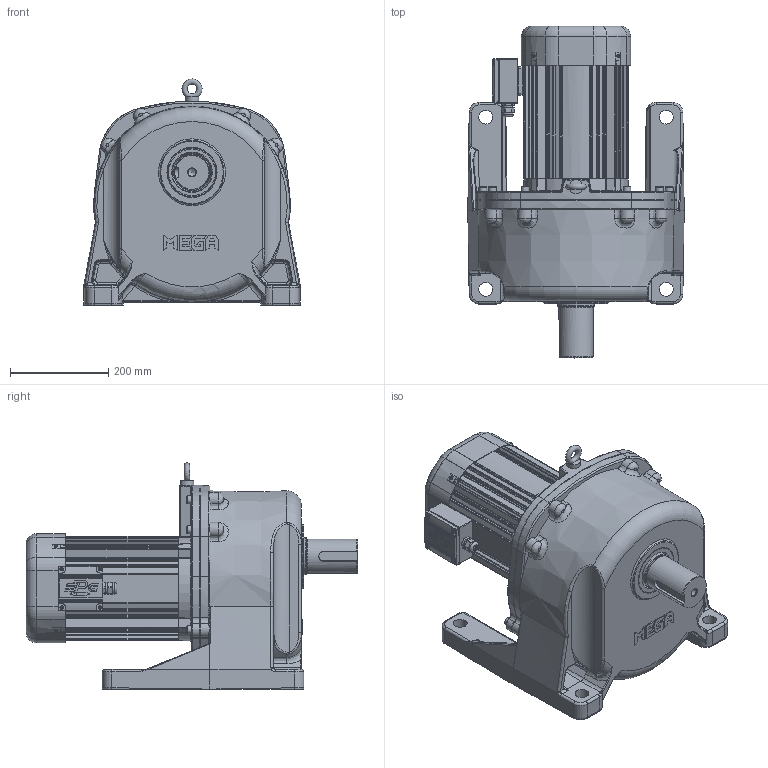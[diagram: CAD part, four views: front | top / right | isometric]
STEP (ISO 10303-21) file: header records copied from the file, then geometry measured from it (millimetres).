
FILE_DESCRIPTION(/* description */ (''),/* implementation_level */ '2;1');
FILE_NAME(/* name */ 'Z:\동력 3D 파일\PML270_3.7kW_3D.stp',/* time_stamp */ '2021-11-30T16:17:13+09:00',/* author */ ('jaebok'),/* organization */ (''),/* preprocessor_version */ 'ST-DEVELOPER v18.1',/* originating_system */ 'Autodesk Inventor 2022',/* authorisation */ '');
FILE_SCHEMA (('AUTOMOTIVE_DESIGN { 1 0 10303 214 3 1 1 }'));
Length unit declared in the file: millimetre
Products named in the file (1): 부품21
Bounding box: 440 x 675 x 460 mm (x, y, z)
Volume: 15553003.8 mm3; surface area: 2396245.9 mm2
Topology: 15 solids, 37 shells, 3453 faces, 8599 edges, 5236 vertices
Faces by surface type: plane 1045, cylinder 971, bspline 741, torus 376, cone 243, sphere 77
Full cylindrical faces by diameter (mm): 3.25 x1, 3.6 x4, 4 x21, 4.5 x4, 5 x18, 6 x5, 6.647 x4, 7 x8, 8 x5, 9 x4, 10 x10, 12 x9, 12.5 x1, 13.835 x9, 15 x1, 16 x9, 17 x8, 20 x2, 21 x1, 23.6 x1, 25 x1, 26 x1, 28 x5, 31 x1, 36 x1, 48 x1, 50 x1, 55 x1, 60 x1, 62 x1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
Entity records: 135025 total; most frequent: CARTESIAN_POINT 53237, ORIENTED_EDGE 16958, DIRECTION 15657, EDGE_CURVE 8479, AXIS2_PLACEMENT_3D 6332, VERTEX_POINT 5239, EDGE_LOOP 3718, CIRCLE 3532
